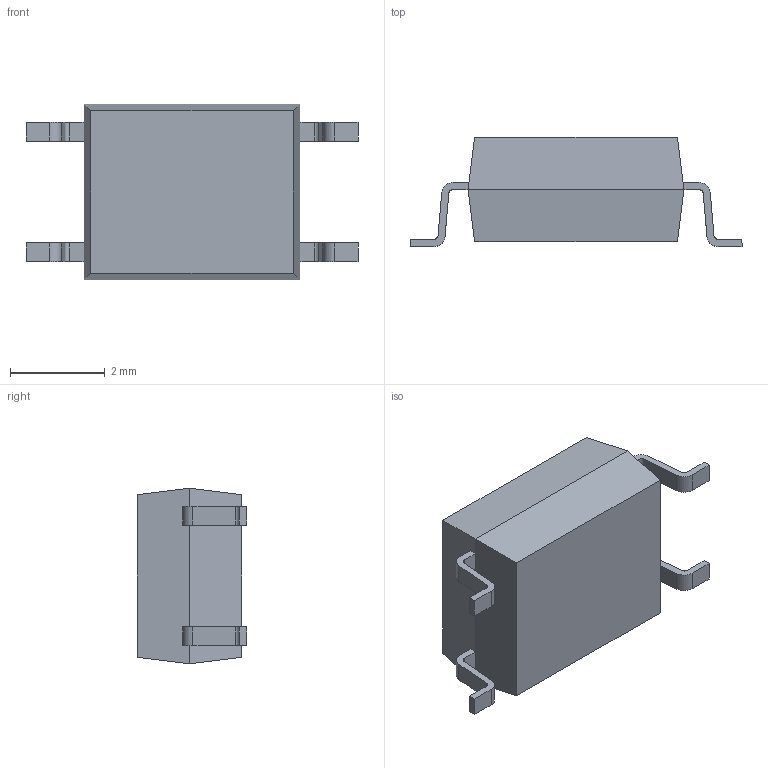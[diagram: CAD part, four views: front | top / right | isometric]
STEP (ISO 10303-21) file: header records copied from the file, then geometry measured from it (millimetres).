
FILE_DESCRIPTION (( 'STEP AP214' ), '1' );
FILE_NAME ('TLP185(E).STEP', '2023-12-15T08:47:15', ( '' ), ( '' ), 'SwSTEP 2.0', 'SolidWorks 2021', '' );
FILE_SCHEMA (( 'AUTOMOTIVE_DESIGN' ));
Length unit declared in the file: millimetre
Products named in the file (1): TLP185(E)
Bounding box: 7 x 2.3 x 3.7 mm (x, y, z)
Volume: 35.2 mm3; surface area: 75.9 mm2
Topology: 6 solids, 6 shells, 73 faces, 176 edges, 116 vertices
Faces by surface type: plane 53, cylinder 20
Entity records: 2197 total; most frequent: CARTESIAN_POINT 366, DIRECTION 364, ORIENTED_EDGE 352, EDGE_CURVE 176, LINE 136, VECTOR 136, VERTEX_POINT 116, AXIS2_PLACEMENT_3D 114
